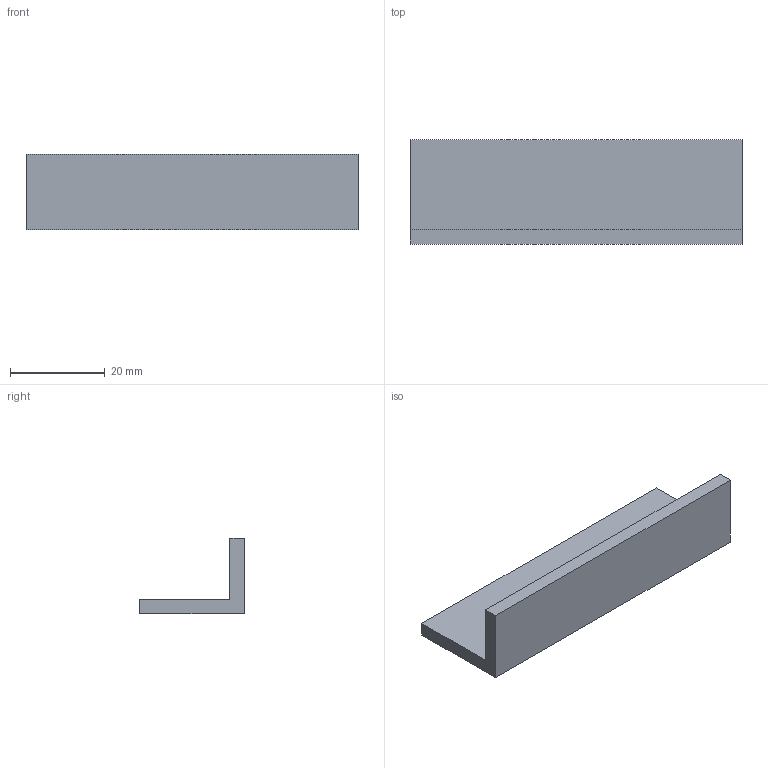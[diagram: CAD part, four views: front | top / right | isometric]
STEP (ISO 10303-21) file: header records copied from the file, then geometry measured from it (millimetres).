
FILE_DESCRIPTION(('Open CASCADE Model'),'2;1');
FILE_NAME('Open CASCADE Shape Model','2026-10-07T15:46:24',('Author'),( 'Open CASCADE'),'Open CASCADE STEP processor 7.9','Open CASCADE 7.9' ,'Unknown');
FILE_SCHEMA(('AUTOMOTIVE_DESIGN { 1 0 10303 214 1 1 1 1 }'));
Length unit declared in the file: millimetre
Products named in the file (1): Open CASCADE STEP translator 7.9 7
Bounding box: 70 x 22 x 16 mm (x, y, z)
Volume: 7350 mm3; surface area: 5530 mm2
Topology: 1 solids, 1 shells, 8 faces, 18 edges, 12 vertices
Faces by surface type: plane 8
Entity records: 464 total; most frequent: CARTESIAN_POINT 77, DIRECTION 70, LINE 52, VECTOR 52, ORIENTED_EDGE 36, PCURVE 36, DEFINITIONAL_REPRESENTATION 36, EDGE_CURVE 18
